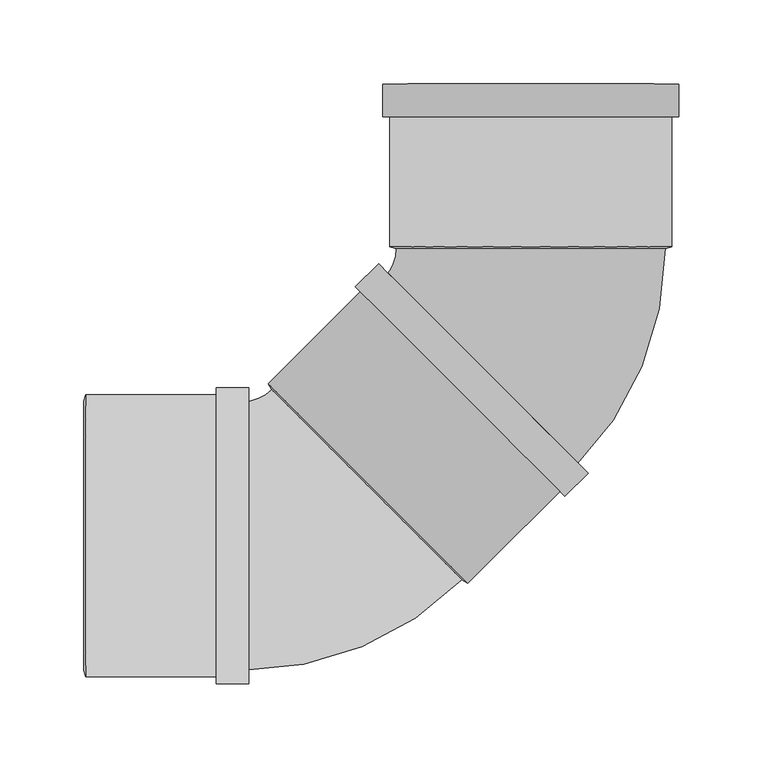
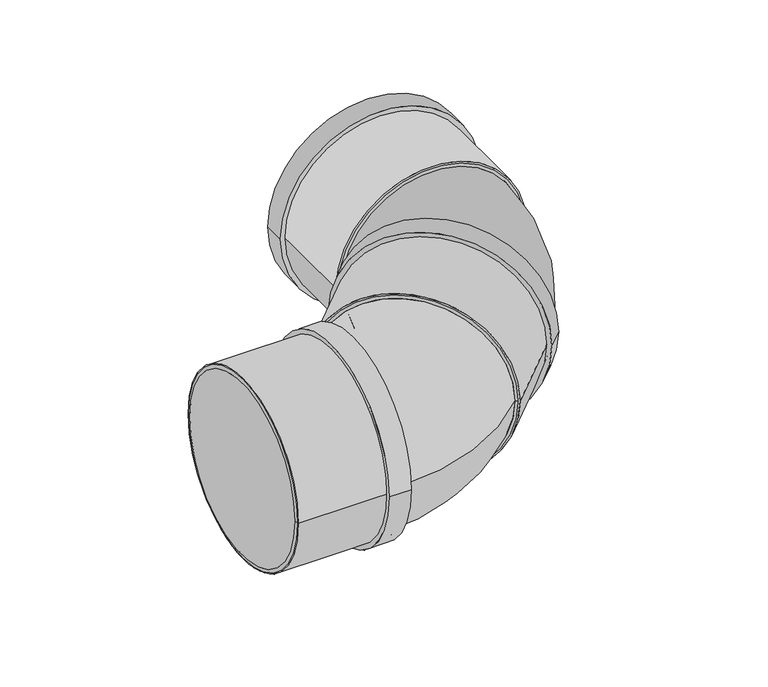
"""IFC4 building model written with IfcOpenShell, lengths in millimetres: pipe fitting geometry, Superdrain SK Bend_Composite 2x45 : Superdrain SK Bend_Composite 2x45."""

import ifcopenshell
import ifcopenshell.guid

model = None  # the IFC model being written
_history = None  # IfcOwnerHistory: only IFC2X3 demands one
_inside = {}  # id of a spatial element -> (the spatial element, [elements in it])
_under = {}  # id of a project, library or spatial element -> (it, [spatial elements below it])
_declared = {}  # id of a project -> (the project, [libraries it declares])
_typed = {}  # id of a type object -> (the type object, [elements of that type])
_made_of = {}  # id of a material, layer set ... -> (it, [elements and type objects made of it])


def new_model(schema):
    """Start an empty IFC model of exactly this schema.

    Asked for "IFC4X3", IfcOpenShell would pick the latest addendum, in which some entities
    have other attributes; the version numbers below select the first issue.
    IFC2X3 requires an IfcOwnerHistory on every rooted entity: one is made here for all.
    """
    global model, _history
    if schema == "IFC4X3":
        model = ifcopenshell.file(schema_version=(4, 3, 0, 0))
    else:
        model = ifcopenshell.file(schema=schema)
    _inside.clear()
    _under.clear()
    _declared.clear()
    _typed.clear()
    _made_of.clear()
    _history = None
    if model.schema == "IFC2X3":
        org = make("IfcOrganization", Name="unknown")
        user = make(
            "IfcPersonAndOrganization",
            ThePerson=make("IfcPerson", FamilyName="unknown"),
            TheOrganization=org,
        )
        app = make(
            "IfcApplication",
            ApplicationDeveloper=org,
            Version="unknown",
            ApplicationFullName="unknown",
            ApplicationIdentifier="unknown",
        )
        _history = make(
            "IfcOwnerHistory",
            OwningUser=user,
            OwningApplication=app,
            ChangeAction="ADDED",
            CreationDate=0,
        )
    return model


def make(cls, **values):
    """One entity of the class cls with the attributes given. An attribute that is None is left unset."""
    return model.create_entity(
        cls, **{name: value for name, value in values.items() if value is not None}
    )


def rooted(cls, **values):
    """An entity with a GlobalId (a new one), such as an element, a storey or a relation."""
    return make(cls, GlobalId=ifcopenshell.guid.new(), OwnerHistory=_history, **values)


def si_unit(unit_type, name, prefix=None):
    """IfcSIUnit, for example si_unit("LENGTHUNIT", "METRE", prefix="MILLI")."""
    return make("IfcSIUnit", UnitType=unit_type, Prefix=prefix, Name=name)


def assignment(units):
    """IfcUnitAssignment: the units of a project."""
    return None if units is None else make("IfcUnitAssignment", Units=units)


def point(xyz):
    """IfcCartesianPoint."""
    return None if xyz is None else make("IfcCartesianPoint", Coordinates=xyz)


def direction(xyz):
    """IfcDirection."""
    return None if xyz is None else make("IfcDirection", DirectionRatios=xyz)


def frame(location, z_axis=None, x_axis=None):
    """IfcAxis2Placement3D, a coordinate frame: its origin and axes. An axis left out is left unset."""
    return make(
        "IfcAxis2Placement3D",
        Location=point(location),
        Axis=direction(z_axis),
        RefDirection=direction(x_axis),
    )


def frame_2d(location, x_axis=None):
    """IfcAxis2Placement2D, a coordinate frame in the plane: its origin and x axis."""
    return make(
        "IfcAxis2Placement2D", Location=point(location), RefDirection=direction(x_axis)
    )


def origin():
    """The frame at (0, 0, 0) with its axes left unset."""
    return frame((0.0, 0.0, 0.0))


def origin_2d():
    """The frame at (0, 0) in the plane with its x axis left unset."""
    return frame_2d((0.0, 0.0))


def place(relative_to, where):
    """IfcLocalPlacement: puts the frame where relative to a parent placement (None: the world)."""
    return make(
        "IfcLocalPlacement", PlacementRelTo=relative_to, RelativePlacement=where
    )


def context(
    kind, dimensions, precision=None, world=None, true_north=None, identifier=None
):
    """IfcGeometricRepresentationContext, for example the 3D "Model" context."""
    return make(
        "IfcGeometricRepresentationContext",
        ContextIdentifier=identifier,
        ContextType=kind,
        CoordinateSpaceDimension=dimensions,
        Precision=precision,
        WorldCoordinateSystem=world,
        TrueNorth=true_north,
    )


def project(units=None, contexts=None):
    """IfcProject with its units and contexts."""
    return rooted(
        "IfcProject",
        Name="project",
        RepresentationContexts=contexts,
        UnitsInContext=assignment(units),
    )


def spatial(cls, under=None, at=None, **own):
    """A site, building, storey or space (cls), placed at a placement, below another one or the project."""
    s = rooted(cls, ObjectPlacement=at, **own)
    if under is not None:
        _under.setdefault(under.id(), (under, []))[1].append(s)
    return s


def polyline(points):
    """IfcPolyline through the points."""
    return make("IfcPolyline", Points=[point(p) for p in points])


def circle_curve(where, radius):
    """IfcCircle in the frame where."""
    return make("IfcCircle", Position=where, Radius=radius)


def ellipse_curve(where, semi_axis1, semi_axis2):
    """IfcEllipse in the frame where."""
    return make(
        "IfcEllipse", Position=where, SemiAxis1=semi_axis1, SemiAxis2=semi_axis2
    )


def trimmed(basis, trim1, trim2, sense, master):
    """IfcTrimmedCurve: the piece of a basis curve between two trims."""
    return make(
        "IfcTrimmedCurve",
        BasisCurve=basis,
        Trim1=trim1,
        Trim2=trim2,
        SenseAgreement=sense,
        MasterRepresentation=master,
    )


def segment(curve, same_sense, transition):
    """IfcCompositeCurveSegment."""
    return make(
        "IfcCompositeCurveSegment",
        Transition=transition,
        SameSense=same_sense,
        ParentCurve=curve,
    )


def composite_curve(segments, self_intersect=None):
    """IfcCompositeCurve: segments joined end to end."""
    return make("IfcCompositeCurve", Segments=segments, SelfIntersect=self_intersect)


def outline(outer, holes=None, kind="AREA"):
    """IfcArbitraryClosedProfileDef: a profile drawn as a closed curve; with holes, ...WithVoids."""
    if holes is None:
        return make("IfcArbitraryClosedProfileDef", ProfileType=kind, OuterCurve=outer)
    return make(
        "IfcArbitraryProfileDefWithVoids",
        ProfileType=kind,
        OuterCurve=outer,
        InnerCurves=holes,
    )


def extrude(swept, where, along, depth):
    """IfcExtrudedAreaSolid: the profile swept, set in the frame where, extruded along a direction by depth."""
    return make(
        "IfcExtrudedAreaSolid",
        SweptArea=swept,
        Position=where,
        ExtrudedDirection=direction(along),
        Depth=depth,
    )


def shape(context_of_items, identifier, shape_type, items):
    """IfcShapeRepresentation: the items that make up one representation, for example the "Body"."""
    return make(
        "IfcShapeRepresentation",
        ContextOfItems=context_of_items,
        RepresentationIdentifier=identifier,
        RepresentationType=shape_type,
        Items=items,
    )


def source(mapping_origin, context_of_items, identifier, shape_type, items):
    """IfcRepresentationMap: a shape defined once, which mapped items show again and again."""
    return make(
        "IfcRepresentationMap",
        MappingOrigin=mapping_origin,
        MappedRepresentation=shape(context_of_items, identifier, shape_type, items),
    )


def transform(
    local_origin,
    x_axis=None,
    y_axis=None,
    z_axis=None,
    scale=None,
    scale2=None,
    scale3=None,
    uniform=True,
):
    """IfcCartesianTransformationOperator3D, or its non-uniform kind. x_axis, y_axis, z_axis: its Axis1, 2, 3."""
    if uniform:
        return make(
            "IfcCartesianTransformationOperator3D",
            Axis1=direction(x_axis),
            Axis2=direction(y_axis),
            LocalOrigin=point(local_origin),
            Scale=scale,
            Axis3=direction(z_axis),
        )
    return make(
        "IfcCartesianTransformationOperator3DnonUniform",
        Axis1=direction(x_axis),
        Axis2=direction(y_axis),
        LocalOrigin=point(local_origin),
        Scale=scale,
        Axis3=direction(z_axis),
        Scale2=scale2,
        Scale3=scale3,
    )


def mapped(mapping_source, mapping_target):
    """IfcMappedItem: shows the shape of a source again, moved by a transform."""
    return make(
        "IfcMappedItem", MappingSource=mapping_source, MappingTarget=mapping_target
    )


def made_of(thing, what):
    """Note that an element or type object is made of a material, layer set ...; save() writes the relation."""
    if what is not None:
        _made_of.setdefault(what.id(), (what, []))[1].append(thing)
    return thing


def element(
    cls,
    number,
    at=None,
    inside=None,
    cuts=None,
    type_object=None,
    material=None,
    context=None,
    identifier="Body",
    shape_type=None,
    held_by="IfcProductDefinitionShape",
    body=None,
    shapes=None,
    **own,
):
    """One element of the class cls, such as IfcWall. Its Tag is "e" and its number.

    at: its placement. inside: the storey or other place that contains it. cuts: it is an
    opening in that element (IfcRelVoidsElement). A single representation is given by context,
    identifier, shape_type and body (its items); several are given by shapes. held_by: the class
    of the entity that holds the representations. save() writes the other relations.
    """
    e = rooted(cls, Tag="e%d" % number, ObjectPlacement=at, **own)
    if body is not None:
        shapes = [shape(context, identifier, shape_type, body)]
    if shapes is not None:
        e.Representation = make(held_by, Representations=shapes)
    if inside is not None:
        _inside.setdefault(inside.id(), (inside, []))[1].append(e)
    if cuts is not None:
        rooted(
            "IfcRelVoidsElement", RelatingBuildingElement=cuts, RelatedOpeningElement=e
        )
    if type_object is not None:
        _typed.setdefault(type_object.id(), (type_object, []))[1].append(e)
    return made_of(e, material)


def aggregate(whole, parts):
    """IfcRelAggregates: a whole, such as a stair, and the parts it consists of."""
    return rooted("IfcRelAggregates", RelatingObject=whole, RelatedObjects=parts)


def save(model, path):
    """Write the relations noted so far, then the file.

    IfcRelAggregates (storeys below a building ...), IfcRelContainedInSpatialStructure (elements
    in a storey), IfcRelDefinesByType, IfcRelAssociatesMaterial and IfcRelDeclares: one each for
    every whole, place, type object, material and project.
    """
    for whole, parts in _under.values():
        aggregate(whole, parts)
    for where, things in _inside.values():
        rooted(
            "IfcRelContainedInSpatialStructure",
            RelatedElements=things,
            RelatingStructure=where,
        )
    for kind, things in _typed.values():
        rooted("IfcRelDefinesByType", RelatedObjects=things, RelatingType=kind)
    for what, things in _made_of.values():
        rooted("IfcRelAssociatesMaterial", RelatedObjects=things, RelatingMaterial=what)
    for by, libraries in _declared.values():
        rooted("IfcRelDeclares", RelatingContext=by, RelatedDefinitions=libraries)
    model.write(path)


def plane_surface(at):
    """IfcPlane: the flat surface through the origin of the frame at, square to its z axis."""
    return make("IfcPlane", Position=at)


def revolved_surface(curve, axis_point, axis_direction):
    """IfcSurfaceOfRevolution: the curve turned about the line through axis_point along axis_direction."""
    return make(
        "IfcSurfaceOfRevolution",
        SweptCurve=make("IfcArbitraryOpenProfileDef", ProfileType="CURVE", Curve=curve),
        AxisPosition=make("IfcAxis1Placement", Location=point(axis_point), Axis=direction(axis_direction)),
    )


def advanced_brep(points, edges, surfaces, faces):
    """IfcAdvancedBrep: a solid bounded by faces that lie on surfaces and meet in shared edges.

    An edge is (start, end): straight between two places in points (the first is 0);
    or (start, end, curve); or (start, end, curve, False) where it runs against its curve.
    A face is (place in surfaces, loops), or (place, loops, False) where it looks against
    its surface's normal. A loop lists edges by number (the first is 1), with a minus sign
    where the edge is run from its end to its start. The first loop is the outer one.
    """
    corners = [point(p) for p in points]
    vertices = [make("IfcVertexPoint", VertexGeometry=c) for c in corners]
    made = []
    for start, end, *more in edges:
        made.append(
            make(
                "IfcEdgeCurve",
                EdgeStart=vertices[start],
                EdgeEnd=vertices[end],
                EdgeGeometry=more[0] if more else make("IfcPolyline", Points=[corners[start], corners[end]]),
                SameSense=more[1] if len(more) > 1 else True,
            )
        )
    hull = []
    for where, loops, *sense in faces:
        bounds = []
        for j, loop in enumerate(loops):
            ring = [make("IfcOrientedEdge", EdgeElement=made[abs(k) - 1], Orientation=k > 0) for k in loop]
            bounds.append(
                make(
                    "IfcFaceOuterBound" if j == 0 else "IfcFaceBound",
                    Bound=make("IfcEdgeLoop", EdgeList=ring),
                    Orientation=True,
                )
            )
        hull.append(make("IfcAdvancedFace", Bounds=bounds, FaceSurface=surfaces[where], SameSense=sense[0] if sense else True))
    return make("IfcAdvancedBrep", Outer=make("IfcClosedShell", CfsFaces=hull))


def pipe_fitting_4e04f077(model_context):
    return source(origin(), model_context, "Body", "SolidModel", [
        advanced_brep(
        [(80.0, 170.9863274, 0.0), (-80.0, 170.9863274, 0.0), (26.1629509, 41.0121933, 0.0), (-86.9741341, 154.1492783, 0.0)],
        [
            (0, 1, circle_curve(frame((0.0, 170.9863274, 0.0), z_axis=(0.0, 1.0, 0.0), x_axis=(-1.0, 0.0, 0.0)), 80.0)),
            (1, 0, circle_curve(frame((0.0, 170.9863274, 0.0), z_axis=(0.0, 1.0, 0.0), x_axis=(-1.0, 0.0, 0.0)), 80.0)),
            (2, 3, circle_curve(frame((-30.4055916, 97.5807358, 0.0), z_axis=(-0.7071067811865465, -0.7071067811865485, 0.0), x_axis=(-0.7071067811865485, 0.7071067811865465, 0.0)), 80.0)),
            (3, 2, circle_curve(frame((-30.4055916, 97.5807358, 0.0), z_axis=(-0.7071067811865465, -0.7071067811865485, 0.0), x_axis=(-0.7071067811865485, 0.7071067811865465, 0.0)), 80.0)),
            (3, 1, circle_curve(frame((-103.8111832, 170.9863274, 0.0), z_axis=(0.0, 0.0, 1.0), x_axis=(0.7071067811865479, 0.707106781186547, 0.0)), 23.8111832)),
            (0, 2, circle_curve(frame((-103.8111832, 170.9863274, 0.0), z_axis=(0.0, 0.0, -1.0), x_axis=(0.7071067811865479, 0.707106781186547, 0.0)), 183.8111832)),
        ],
        [
            plane_surface(frame((0.0, 170.9863274, 0.0), z_axis=(0.0, 1.0, 0.0), x_axis=(0.0, 0.0, -1.0))),
            plane_surface(frame((-30.4055916, 97.5807358, 0.0), z_axis=(-0.7071067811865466, -0.7071067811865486, 0.0), x_axis=(0.0, 0.0, -1.0))),
            revolved_surface(trimmed(ellipse_curve(frame((-30.4055916, 244.391919, 0.0), z_axis=(0.707106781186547, -0.7071067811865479, 0.0), x_axis=(-0.7071067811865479, -0.707106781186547, 0.0)), 80.0, 80.0), [point((-86.9741341, 187.8233765, 0.0))], [point((26.1629509, 300.9604615, 0.0))], True, "CARTESIAN"), (-103.8111832, 170.9863274, 0.0), (0.0, 0.0, 1.0)),
            revolved_surface(trimmed(ellipse_curve(frame((-30.4055916, 244.391919, 0.0), z_axis=(0.707106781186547, -0.7071067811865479, 0.0), x_axis=(-0.7071067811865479, -0.707106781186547, 0.0)), 80.0, 80.0), [point((26.1629509, 300.9604615, 0.0))], [point((-86.9741341, 187.8233765, 0.0))], True, "CARTESIAN"), (-103.8111832, 170.9863274, 0.0), (0.0, 0.0, 1.0)),
        ],
        [
            (0, [[1, 2]]),
            (1, [[3, 4]]),
            (2, [[-4, 5, -1, 6]]),
            (3, [[-3, -6, -2, -5]]),
        ],
    ),
        extrude(outline(composite_curve([segment(trimmed(circle_curve(origin_2d(), 84.0), [point((0.0, 84.0))], [point((0.0, -84.0))], False, "CARTESIAN"), True, "CONTINUOUS"), segment(trimmed(circle_curve(origin_2d(), 84.0), [point((0.0, -84.0))], [point((0.0, 84.0))], False, "CARTESIAN"), True, "CONTINUOUS")], self_intersect=False), holes=[composite_curve([segment(trimmed(circle_curve(origin_2d(), 80.0), [point((0.0, 80.0))], [point((0.0, -80.0))], True, "CARTESIAN"), True, "CONTINUOUS"), segment(trimmed(circle_curve(origin_2d(), 80.0), [point((0.0, -80.0))], [point((0.0, 80.0))], True, "CARTESIAN"), True, "CONTINUOUS")], self_intersect=False)]), frame((0.0, 171.9863274, 0.0), z_axis=(0.0, 1.0, 0.0), x_axis=(0.0, 0.0, 1.0)), (0.0, 0.0, 1.0), 97.0),
        extrude(outline(composite_curve([segment(trimmed(circle_curve(origin_2d(), 88.2), [point((0.0, -88.2))], [point((0.0, 88.2))], False, "CARTESIAN"), True, "CONTINUOUS"), segment(trimmed(circle_curve(origin_2d(), 88.2), [point((0.0, 88.2))], [point((0.0, -88.2))], False, "CARTESIAN"), True, "CONTINUOUS")], self_intersect=False), holes=[composite_curve([segment(trimmed(circle_curve(origin_2d(), 80.0), [point((0.0, -80.0))], [point((0.0, 80.0))], True, "CARTESIAN"), True, "CONTINUOUS"), segment(trimmed(circle_curve(origin_2d(), 80.0), [point((0.0, 80.0))], [point((0.0, -80.0))], True, "CARTESIAN"), True, "CONTINUOUS")], self_intersect=False)]), frame((0.0, 249.5863274, 0.0), z_axis=(0.0, 1.0, 0.0), x_axis=(0.0, 0.0, 1.0)), (0.0, 0.0, 1.0), 19.4),
        advanced_brep(
        [(84.0, 171.9863274, 0.0), (-84.0, 171.9863274, 0.0), (80.0, 170.9863274, 0.0), (-80.0, 170.9863274, 0.0)],
        [
            (0, 1, circle_curve(frame((0.0, 171.9863274, 0.0), z_axis=(0.0, 1.0, 0.0), x_axis=(1.0, 0.0, 0.0)), 84.0)),
            (1, 0, circle_curve(frame((0.0, 171.9863274, 0.0), z_axis=(0.0, 1.0, 0.0), x_axis=(-1.0, 0.0, 0.0)), 84.0)),
            (2, 3, circle_curve(frame((0.0, 170.9863274, 0.0), z_axis=(0.0, -1.0, 0.0), x_axis=(-1.0, 0.0, 0.0)), 80.0)),
            (3, 2, circle_curve(frame((0.0, 170.9863274, 0.0), z_axis=(0.0, -1.0, 0.0), x_axis=(1.0, 0.0, 0.0)), 80.0)),
            (3, 1),
            (0, 2),
        ],
        [
            plane_surface(frame((0.0, 171.9863274, 0.0), z_axis=(0.0, 1.0, 0.0), x_axis=(0.0, 0.0, -1.0))),
            plane_surface(frame((0.0, 170.9863274, 0.0), z_axis=(0.0, -1.0, 0.0), x_axis=(0.0, 0.0, -1.0))),
            revolved_surface(polyline([(-80.0, 170.9863274, 0.0), (-84.0, 171.9863274, 0.0)]), (0.0, 150.9863274, 0.0), (0.0, 0.9999999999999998, 0.0)),
            revolved_surface(polyline([(80.0, 170.9863274, 0.0), (84.0, 171.9863274, 0.0)]), (0.0, 150.9863274, 0.0), (0.0, 0.9999999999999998, 0.0)),
        ],
        [
            (0, [[1, 2]]),
            (1, [[3, 4]]),
            (2, [[-4, 5, -1, 6]]),
            (3, [[-3, -6, -2, -5]]),
        ],
    ),
        extrude(outline(composite_curve([segment(trimmed(circle_curve(origin_2d(), 80.0), [point((0.0, -80.0))], [point((0.0, 80.0))], False, "CARTESIAN"), True, "CONTINUOUS"), segment(trimmed(circle_curve(origin_2d(), 80.0), [point((0.0, 80.0))], [point((0.0, -80.0))], False, "CARTESIAN"), True, "CONTINUOUS")], self_intersect=False)), frame((-96.873629, 31.1126984, 0.0), z_axis=(0.707106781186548, 0.7071067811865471, 0.0), x_axis=(0.0, 0.0, -1.0)), (0.0, 0.0, 1.0), 94.0),
        extrude(outline(composite_curve([segment(trimmed(circle_curve(origin_2d(), 84.0), [point((84.0, 0.0))], [point((-84.0, 0.0))], False, "CARTESIAN"), True, "CONTINUOUS"), segment(trimmed(circle_curve(origin_2d(), 84.0), [point((-84.0, 0.0))], [point((84.0, 0.0))], False, "CARTESIAN"), True, "CONTINUOUS")], self_intersect=False), holes=[composite_curve([segment(trimmed(circle_curve(origin_2d(), 80.0), [point((80.0, 0.0))], [point((-80.0, 0.0))], True, "CARTESIAN"), True, "CONTINUOUS"), segment(trimmed(circle_curve(origin_2d(), 80.0), [point((-80.0, 0.0))], [point((80.0, 0.0))], True, "CARTESIAN"), True, "CONTINUOUS")], self_intersect=False)]), frame((-264.9863274, 0.0, 0.0), z_axis=(1.0, 0.0, 0.0), x_axis=(0.0, 1.0, 0.0)), (0.0, 0.0, 1.0), 97.0),
        extrude(outline(composite_curve([segment(trimmed(circle_curve(origin_2d(), 88.2), [point((88.2, 0.0))], [point((-88.2, 0.0))], False, "CARTESIAN"), True, "CONTINUOUS"), segment(trimmed(circle_curve(origin_2d(), 88.2), [point((-88.2, 0.0))], [point((88.2, 0.0))], False, "CARTESIAN"), True, "CONTINUOUS")], self_intersect=False), holes=[composite_curve([segment(trimmed(circle_curve(origin_2d(), 80.0), [point((80.0, 0.0))], [point((-80.0, 0.0))], True, "CARTESIAN"), True, "CONTINUOUS"), segment(trimmed(circle_curve(origin_2d(), 80.0), [point((-80.0, 0.0))], [point((80.0, 0.0))], True, "CARTESIAN"), True, "CONTINUOUS")], self_intersect=False)]), frame((-187.3863274, 0.0, 0.0), z_axis=(1.0, 0.0, 0.0), x_axis=(0.0, 1.0, 0.0)), (0.0, 0.0, 1.0), 19.4),
        advanced_brep(
        [(-265.9863274, 80.0, 0.0), (-265.9863274, -80.0, 0.0), (-264.9863274, 84.0, 0.0), (-264.9863274, -84.0, 0.0)],
        [
            (0, 1, circle_curve(frame((-265.9863274, 0.0, 0.0), z_axis=(-1.0, 0.0, 0.0), x_axis=(0.0, 1.0000000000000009, 0.0)), 80.0)),
            (1, 0, circle_curve(frame((-265.9863274, 0.0, 0.0), z_axis=(-1.0, 0.0, 0.0), x_axis=(0.0, -1.0000000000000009, 0.0)), 80.0)),
            (2, 3, circle_curve(frame((-264.9863274, 0.0, 0.0), z_axis=(1.0, 0.0, 0.0), x_axis=(0.0, -1.0000000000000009, 0.0)), 84.0)),
            (3, 2, circle_curve(frame((-264.9863274, 0.0, 0.0), z_axis=(1.0, 0.0, 0.0), x_axis=(0.0, 1.0000000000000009, 0.0)), 84.0)),
            (3, 1),
            (0, 2),
        ],
        [
            plane_surface(frame((-265.9863274, 0.0, 0.0), z_axis=(-1.0, 0.0, 0.0), x_axis=(0.0, 0.0, -1.0))),
            plane_surface(frame((-264.9863274, 0.0, 0.0), z_axis=(1.0, 0.0, 0.0), x_axis=(0.0, 0.0, -1.0))),
            revolved_surface(polyline([(-265.9863274, 79.99999999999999, 0.0), (-264.9863274, 84.0, 0.0)]), (-285.9863274, 0.0, 0.0), (1.0000000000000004, 0.0, 0.0)),
            revolved_surface(polyline([(-265.9863274, -79.99999999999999, 0.0), (-264.9863274, -84.0, 0.0)]), (-285.9863274, 0.0, 0.0), (1.0000000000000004, 0.0, 0.0)),
        ],
        [
            (0, [[1, 2]]),
            (1, [[3, 4]]),
            (2, [[-4, 5, -1, 6]]),
            (3, [[-3, -6, -2, -5]]),
        ],
    ),
        advanced_brep(
        [(-41.0121933, -26.1629509, 0.0), (-154.1492783, 86.9741341, 0.0), (-170.9863274, -80.0, 0.0), (-170.9863274, 80.0, 0.0)],
        [
            (0, 1, circle_curve(frame((-97.5807358, 30.4055916, 0.0), z_axis=(0.7071067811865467, 0.7071067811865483, 0.0), x_axis=(-0.7071067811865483, 0.7071067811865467, 0.0)), 80.0)),
            (1, 0, circle_curve(frame((-97.5807358, 30.4055916, 0.0), z_axis=(0.7071067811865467, 0.7071067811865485, 0.0), x_axis=(-0.7071067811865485, 0.7071067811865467, 0.0)), 80.0)),
            (2, 3, circle_curve(frame((-170.9863274, 0.0, 0.0), z_axis=(-1.0, 0.0, 0.0), x_axis=(0.0, 1.0, 0.0)), 80.0)),
            (3, 2, circle_curve(frame((-170.9863274, 0.0, 0.0), z_axis=(-1.0, 0.0, 0.0), x_axis=(0.0, 1.0, 0.0)), 80.0)),
            (3, 1, circle_curve(frame((-170.9863274, 103.8111832, 0.0), z_axis=(0.0, 0.0, 1.0), x_axis=(1.0, 0.0, 0.0)), 23.8111832)),
            (0, 2, circle_curve(frame((-170.9863274, 103.8111832, 0.0), z_axis=(0.0, 0.0, -1.0), x_axis=(1.0, 0.0, 0.0)), 183.8111832)),
        ],
        [
            plane_surface(frame((-97.5807358, 30.4055916, 0.0), z_axis=(0.7071067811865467, 0.7071067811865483, 0.0), x_axis=(0.0, 0.0, -1.0))),
            plane_surface(frame((-170.9863274, 0.0, 0.0), z_axis=(-1.0, 0.0, 0.0), x_axis=(0.0, 0.0, -1.0))),
            revolved_surface(trimmed(ellipse_curve(frame((-67.1751442, 103.8111832, 0.0), z_axis=(0.0, -1.0, 0.0), x_axis=(-1.0, 0.0, 0.0)), 80.0, 80.0), [point((-147.1751442, 103.8111832, 0.0))], [point((12.8248558, 103.8111832, 0.0))], True, "CARTESIAN"), (-170.9863274, 103.8111832, 0.0), (0.0, 0.0, 1.0)),
            revolved_surface(trimmed(ellipse_curve(frame((-67.1751442, 103.8111832, 0.0), z_axis=(0.0, -1.0, 0.0), x_axis=(-1.0, 0.0, 0.0)), 80.0, 80.0), [point((12.8248558, 103.8111832, 0.0))], [point((-147.1751442, 103.8111832, 0.0))], True, "CARTESIAN"), (-170.9863274, 103.8111832, 0.0), (0.0, 0.0, 1.0)),
        ],
        [
            (0, [[1, 2]]),
            (1, [[3, 4]]),
            (2, [[-4, 5, -1, 6]]),
            (3, [[-3, -6, -2, -5]]),
        ],
    ),
        extrude(outline(composite_curve([segment(trimmed(circle_curve(origin_2d(), 84.0), [point((0.0, 84.0))], [point((0.0, -84.0))], False, "CARTESIAN"), True, "CONTINUOUS"), segment(trimmed(circle_curve(origin_2d(), 84.0), [point((0.0, -84.0))], [point((0.0, 84.0))], False, "CARTESIAN"), True, "CONTINUOUS")], self_intersect=False), holes=[composite_curve([segment(trimmed(circle_curve(origin_2d(), 80.0), [point((0.0, 80.0))], [point((0.0, -80.0))], True, "CARTESIAN"), True, "CONTINUOUS"), segment(trimmed(circle_curve(origin_2d(), 80.0), [point((0.0, -80.0))], [point((0.0, 80.0))], True, "CARTESIAN"), True, "CONTINUOUS")], self_intersect=False)]), frame((-96.873629, 31.1126984, 0.0), z_axis=(0.7071067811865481, 0.7071067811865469, 0.0), x_axis=(0.0, 0.0, 1.0)), (0.0, 0.0, 1.0), 97.0),
        extrude(outline(composite_curve([segment(trimmed(circle_curve(origin_2d(), 88.2), [point((0.0, -88.2))], [point((0.0, 88.2))], False, "CARTESIAN"), True, "CONTINUOUS"), segment(trimmed(circle_curve(origin_2d(), 88.2), [point((0.0, 88.2))], [point((0.0, -88.2))], False, "CARTESIAN"), True, "CONTINUOUS")], self_intersect=False), holes=[composite_curve([segment(trimmed(circle_curve(origin_2d(), 80.0), [point((0.0, -80.0))], [point((0.0, 80.0))], True, "CARTESIAN"), True, "CONTINUOUS"), segment(trimmed(circle_curve(origin_2d(), 80.0), [point((0.0, 80.0))], [point((0.0, -80.0))], True, "CARTESIAN"), True, "CONTINUOUS")], self_intersect=False)]), frame((-42.0021428, 85.9841846, 0.0), z_axis=(0.7071067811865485, 0.7071067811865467, 0.0), x_axis=(0.0, 0.0, 1.0)), (0.0, 0.0, 1.0), 19.4),
        advanced_brep(
        [(-37.4766594, -28.2842712, 0.0), (-156.2705986, 90.509668, 0.0), (-41.0121933, -26.1629509, 0.0), (-154.1492783, 86.9741341, 0.0)],
        [
            (0, 1, circle_curve(frame((-96.873629, 31.1126984, 0.0), z_axis=(0.7071067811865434, 0.7071067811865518, 0.0), x_axis=(0.7071067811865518, -0.7071067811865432, 0.0)), 84.0)),
            (1, 0, circle_curve(frame((-96.873629, 31.1126984, 0.0), z_axis=(0.7071067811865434, 0.7071067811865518, 0.0), x_axis=(-0.7071067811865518, 0.7071067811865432, 0.0)), 84.0)),
            (2, 3, circle_curve(frame((-97.5807358, 30.4055916, 0.0), z_axis=(-0.7071067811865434, -0.7071067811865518, 0.0), x_axis=(-0.7071067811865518, 0.7071067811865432, 0.0)), 80.0)),
            (3, 2, circle_curve(frame((-97.5807358, 30.4055916, 0.0), z_axis=(-0.7071067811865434, -0.7071067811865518, 0.0), x_axis=(0.7071067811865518, -0.7071067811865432, 0.0)), 80.0)),
            (3, 1),
            (0, 2),
        ],
        [
            plane_surface(frame((-96.873629, 31.1126984, 0.0), z_axis=(0.7071067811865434, 0.7071067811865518, 0.0), x_axis=(0.0, 0.0, -1.0))),
            plane_surface(frame((-97.5807358, 30.4055916, 0.0), z_axis=(-0.7071067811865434, -0.7071067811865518, 0.0), x_axis=(0.0, 0.0, -1.0))),
            revolved_surface(polyline([(-154.14927819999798, 86.97413399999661, 0.0), (-156.2705986, 90.509668, 0.0)]), (-111.7228714, 16.263456, 0.0), (0.7071067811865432, 0.7071067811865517, 0.0)),
            revolved_surface(polyline([(-41.01219340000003, -26.16295079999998, 0.0), (-37.47665939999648, -28.284271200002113, 0.0)]), (-111.7228714, 16.263456, 0.0), (0.7071067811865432, 0.7071067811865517, 0.0)),
        ],
        [
            (0, [[1, 2]]),
            (1, [[3, 4]]),
            (2, [[-4, 5, -1, 6]]),
            (3, [[-3, -6, -2, -5]]),
        ],
    ),
        extrude(outline(composite_curve([segment(trimmed(circle_curve(origin_2d(), 80.0), [point((-80.0, 0.0))], [point((80.0, 0.0))], False, "CARTESIAN"), True, "CONTINUOUS"), segment(trimmed(circle_curve(origin_2d(), 80.0), [point((80.0, 0.0))], [point((-80.0, 0.0))], False, "CARTESIAN"), True, "CONTINUOUS")], self_intersect=False)), frame((-264.9863274, 0.0, 0.0), z_axis=(1.0, 0.0, 0.0), x_axis=(0.0, 1.0, 0.0)), (0.0, 0.0, 1.0), 94.0),
    ])


if __name__ == "__main__":
    model = new_model("IFC4")
    model_context = context("Model", 3, world=origin())
    ifc_project = project(units=[si_unit("LENGTHUNIT", "METRE", prefix="MILLI")], contexts=[model_context])
    site = spatial("IfcSite", under=ifc_project)
    building = spatial("IfcBuilding", under=site)
    placement = place(None, origin())
    pipe_fitting_shape = pipe_fitting_4e04f077(model_context)
    element("IfcPipeFitting", 1, ObjectType="Superdrain SK Bend_Composite 2x45 : Superdrain SK Bend_Composite 2x45", at=placement, inside=building, context=model_context, shape_type="MappedRepresentation", body=[
        mapped(pipe_fitting_shape, transform((0.0, 0.0, 0.0), x_axis=(1.0, 0.0, 0.0), y_axis=(0.0, 1.0, 0.0), z_axis=(0.0, 0.0, 1.0))),
    ])
    save(model, "model.ifc")
